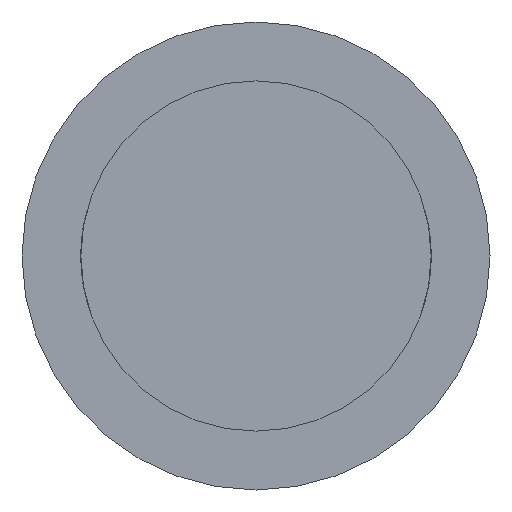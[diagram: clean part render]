
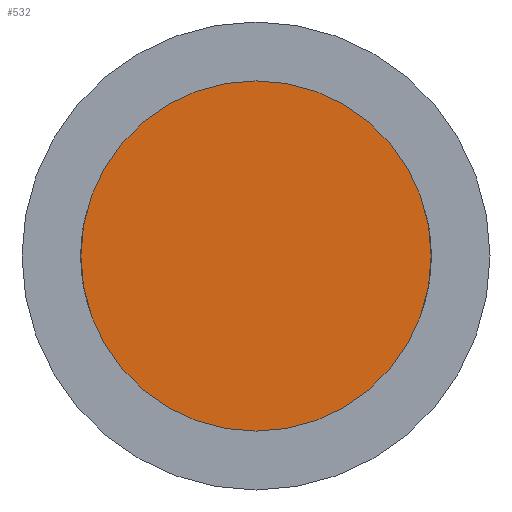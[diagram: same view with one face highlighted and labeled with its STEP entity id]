
A CAD part, front view. The second image highlights one B-rep face of the part: STEP entity #532.
In plain terms, the highlighted planar face has unit normal (0, -1, 0).
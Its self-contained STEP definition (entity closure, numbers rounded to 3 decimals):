
#15 = EDGE_CURVE ( 'NONE', #310, #511, #284, .T. ) ;
#58 = DIRECTION ( 'NONE',  ( 0., -1., 0. ) ) ;
#96 = CARTESIAN_POINT ( 'NONE',  ( 0., -110., 0. ) ) ;
#103 = AXIS2_PLACEMENT_3D ( 'NONE', #424, #58, #550 ) ;
#132 = ORIENTED_EDGE ( 'NONE', *, *, #15, .T. ) ;
#192 = CARTESIAN_POINT ( 'NONE',  ( 0., -110., 6.1 ) ) ;
#204 = CARTESIAN_POINT ( 'NONE',  ( 0., -110., -6.1 ) ) ;
#251 = ORIENTED_EDGE ( 'NONE', *, *, #461, .T. ) ;
#284 = CIRCLE ( 'NONE', #785, 6.1 ) ;
#310 = VERTEX_POINT ( 'NONE', #204 ) ;
#323 = DIRECTION ( 'NONE',  ( 0., -1., 0. ) ) ;
#374 = CIRCLE ( 'NONE', #103, 6.1 ) ;
#381 = DIRECTION ( 'NONE',  ( 0., 0., -1. ) ) ;
#402 = DIRECTION ( 'NONE',  ( 0., -1., 0. ) ) ;
#414 = DIRECTION ( 'NONE',  ( 0., 0., -1. ) ) ;
#424 = CARTESIAN_POINT ( 'NONE',  ( 0., -110., 0. ) ) ;
#449 = CARTESIAN_POINT ( 'NONE',  ( 0., -110., 0. ) ) ;
#461 = EDGE_CURVE ( 'NONE', #511, #310, #374, .T. ) ;
#511 = VERTEX_POINT ( 'NONE', #192 ) ;
#523 = EDGE_LOOP ( 'NONE', ( #251, #132 ) ) ;
#532 = ADVANCED_FACE ( 'NONE', ( #559 ), #682, .T. ) ;
#550 = DIRECTION ( 'NONE',  ( 0., 0., -1. ) ) ;
#559 = FACE_OUTER_BOUND ( 'NONE', #523, .T. ) ;
#564 = AXIS2_PLACEMENT_3D ( 'NONE', #449, #323, #381 ) ;
#682 = PLANE ( 'NONE',  #564 ) ;
#785 = AXIS2_PLACEMENT_3D ( 'NONE', #96, #402, #414 ) ;
